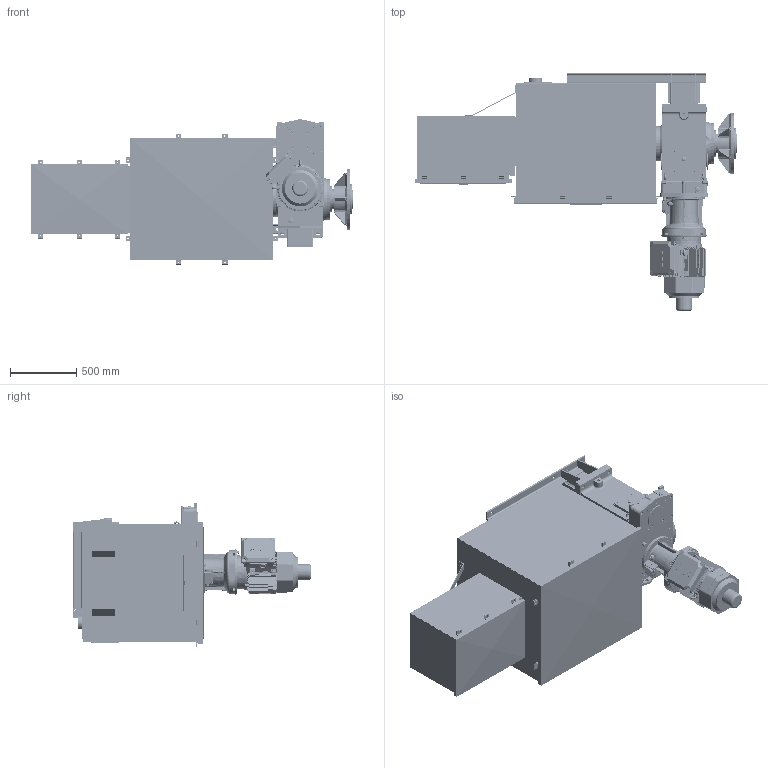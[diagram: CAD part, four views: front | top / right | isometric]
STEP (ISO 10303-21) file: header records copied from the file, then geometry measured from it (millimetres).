
FILE_DESCRIPTION(/* description */ (''),/* implementation_level */ '2;1');
FILE_NAME(/* name */ 'K:\NEMANJA\CABLE REEL\CABLE REEL DA\0700-6\07006005 DA-CRVD\STEP\75984 .stp',/* time_stamp */ '2017-03-16T15:39:07+01:00',/* author */ ('milman01'),/* organization */ ('Hillmar Industries Ltd.'),/* preprocessor_version */ 'ST-DEVELOPER v16.1',/* originating_system */ 'Autodesk Inventor 2016',/* authorisation */ '');
FILE_SCHEMA (('AUTOMOTIVE_DESIGN { 1 0 10303 214 3 1 1 }'));
Products named in the file (1): 75984 
Bounding box: 2435.67 x 1796.59 x 1096.62 mm (x, y, z)
Volume: 139070766.8 mm3; surface area: 26366661.3 mm2
Topology: 15 solids, 15 shells, 5460 faces, 14501 edges, 9306 vertices
Faces by surface type: plane 2622, cylinder 1542, bspline 603, cone 444, torus 223, sphere 26
Full cylindrical faces by diameter (mm): 7 x4, 8 x2, 8.376 x24, 8.731 x1, 9 x3, 10 x24, 10.106 x87, 11 x44, 12 x19, 12.5 x6, 13 x40, 13.5 x16, 13.835 x3, 14 x32, 14.917 x1, 16 x2, 18 x1, 18.256 x3, 18.38 x4, 19 x4, 20 x26, 20.5 x4, 21.336 x1, 22 x21, 22.225 x1, 22.3 x4, 23.812 x2, 24.917 x1, 24.918 x1, 25 x8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
Entity records: 186901 total; most frequent: CARTESIAN_POINT 53441, ORIENTED_EDGE 26748, DIRECTION 25054, EDGE_CURVE 13352, VERTEX_POINT 8965, AXIS2_PLACEMENT_3D 8933, LINE 7188, VECTOR 7188
